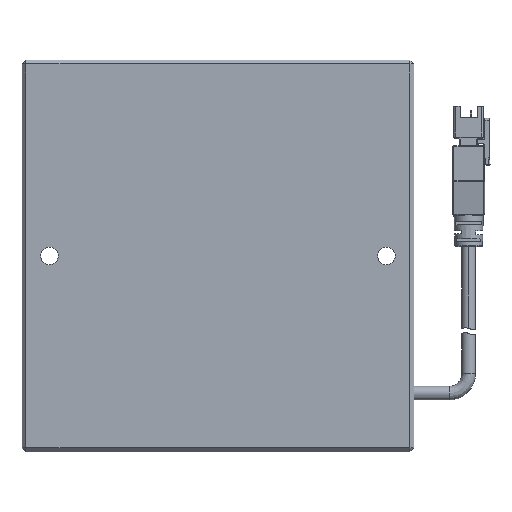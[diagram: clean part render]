
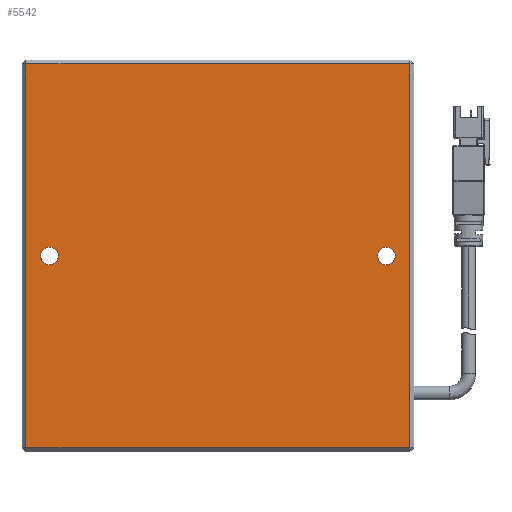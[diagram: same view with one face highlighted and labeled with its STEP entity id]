
A CAD part, top view. The second image highlights one B-rep face of the part: STEP entity #5542.
In plain terms, the highlighted planar face has unit normal (0, 0, 1).
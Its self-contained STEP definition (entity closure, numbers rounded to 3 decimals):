
#113 = EDGE_CURVE ( 'NONE', #7248, #159, #3852, .T. ) ;
#159 = VERTEX_POINT ( 'NONE', #5829 ) ;
#230 = EDGE_CURVE ( 'NONE', #6956, #6517, #3843, .T. ) ;
#234 = VERTEX_POINT ( 'NONE', #3248 ) ;
#439 = CARTESIAN_POINT ( 'NONE',  ( 49., 50., 10.5 ) ) ;
#526 = EDGE_CURVE ( 'NONE', #5541, #234, #832, .T. ) ;
#559 = CARTESIAN_POINT ( 'NONE',  ( -43., 0., 10.5 ) ) ;
#590 = CIRCLE ( 'NONE', #3587, 2.25 ) ;
#696 = DIRECTION ( 'NONE',  ( 0., -1., 0. ) ) ;
#832 = CIRCLE ( 'NONE', #6857, 2.25 ) ;
#919 = VERTEX_POINT ( 'NONE', #4359 ) ;
#1481 = AXIS2_PLACEMENT_3D ( 'NONE', #559, #6333, #8262 ) ;
#1549 = PLANE ( 'NONE',  #3661 ) ;
#1663 = EDGE_CURVE ( 'NONE', #919, #6956, #1845, .T. ) ;
#1711 = EDGE_CURVE ( 'NONE', #7384, #919, #8101, .T. ) ;
#1783 = DIRECTION ( 'NONE',  ( -1., 0., 0. ) ) ;
#1845 = LINE ( 'NONE', #439, #6797 ) ;
#2002 = ORIENTED_EDGE ( 'NONE', *, *, #113, .T. ) ;
#2404 = EDGE_LOOP ( 'NONE', ( #4332, #6269, #4570, #4905 ) ) ;
#2664 = DIRECTION ( 'NONE',  ( -1., 0., 0. ) ) ;
#2693 = DIRECTION ( 'NONE',  ( 1., 0., 0. ) ) ;
#2721 = VECTOR ( 'NONE', #2664, 1000. ) ;
#2791 = CARTESIAN_POINT ( 'NONE',  ( -40.75, 0., 10.5 ) ) ;
#2915 = CARTESIAN_POINT ( 'NONE',  ( 43., 0., 10.5 ) ) ;
#3081 = EDGE_CURVE ( 'NONE', #234, #5541, #590, .T. ) ;
#3139 = LINE ( 'NONE', #5806, #4640 ) ;
#3248 = CARTESIAN_POINT ( 'NONE',  ( 40.75, 0., 10.5 ) ) ;
#3456 = CARTESIAN_POINT ( 'NONE',  ( 50., -49., 10.5 ) ) ;
#3573 = DIRECTION ( 'NONE',  ( 0., 0., -1. ) ) ;
#3587 = AXIS2_PLACEMENT_3D ( 'NONE', #2915, #3573, #8013 ) ;
#3661 = AXIS2_PLACEMENT_3D ( 'NONE', #7926, #6630, #7251 ) ;
#3697 = ORIENTED_EDGE ( 'NONE', *, *, #3081, .T. ) ;
#3843 = LINE ( 'NONE', #6385, #2721 ) ;
#3852 = CIRCLE ( 'NONE', #1481, 2.25 ) ;
#3921 = CARTESIAN_POINT ( 'NONE',  ( -49., 49., 10.5 ) ) ;
#4171 = DIRECTION ( 'NONE',  ( 0., 1., 0. ) ) ;
#4195 = CARTESIAN_POINT ( 'NONE',  ( -49., -49., 10.5 ) ) ;
#4332 = ORIENTED_EDGE ( 'NONE', *, *, #230, .T. ) ;
#4359 = CARTESIAN_POINT ( 'NONE',  ( 49., -49., 10.5 ) ) ;
#4522 = FACE_BOUND ( 'NONE', #6193, .T. ) ;
#4570 = ORIENTED_EDGE ( 'NONE', *, *, #1711, .T. ) ;
#4640 = VECTOR ( 'NONE', #696, 1000. ) ;
#4750 = EDGE_CURVE ( 'NONE', #6517, #7384, #3139, .T. ) ;
#4770 = CIRCLE ( 'NONE', #6427, 2.25 ) ;
#4898 = CARTESIAN_POINT ( 'NONE',  ( 43., 0., 10.5 ) ) ;
#4905 = ORIENTED_EDGE ( 'NONE', *, *, #1663, .T. ) ;
#5453 = ORIENTED_EDGE ( 'NONE', *, *, #526, .T. ) ;
#5541 = VERTEX_POINT ( 'NONE', #7229 ) ;
#5542 = ADVANCED_FACE ( 'NONE', ( #5788, #6183, #4522 ), #1549, .T. ) ;
#5587 = DIRECTION ( 'NONE',  ( 0., 0., -1. ) ) ;
#5783 = CARTESIAN_POINT ( 'NONE',  ( -43., 0., 10.5 ) ) ;
#5788 = FACE_OUTER_BOUND ( 'NONE', #2404, .T. ) ;
#5806 = CARTESIAN_POINT ( 'NONE',  ( -49., -50., 10.5 ) ) ;
#5829 = CARTESIAN_POINT ( 'NONE',  ( -45.25, 0., 10.5 ) ) ;
#5849 = EDGE_LOOP ( 'NONE', ( #5942, #2002 ) ) ;
#5888 = DIRECTION ( 'NONE',  ( 0., 0., -1. ) ) ;
#5942 = ORIENTED_EDGE ( 'NONE', *, *, #7021, .T. ) ;
#6183 = FACE_BOUND ( 'NONE', #5849, .T. ) ;
#6193 = EDGE_LOOP ( 'NONE', ( #3697, #5453 ) ) ;
#6269 = ORIENTED_EDGE ( 'NONE', *, *, #4750, .T. ) ;
#6333 = DIRECTION ( 'NONE',  ( 0., 0., -1. ) ) ;
#6385 = CARTESIAN_POINT ( 'NONE',  ( -50., 49., 10.5 ) ) ;
#6399 = VECTOR ( 'NONE', #2693, 1000. ) ;
#6427 = AXIS2_PLACEMENT_3D ( 'NONE', #5783, #5888, #7693 ) ;
#6517 = VERTEX_POINT ( 'NONE', #3921 ) ;
#6630 = DIRECTION ( 'NONE',  ( 0., 0., 1. ) ) ;
#6797 = VECTOR ( 'NONE', #4171, 1000. ) ;
#6828 = CARTESIAN_POINT ( 'NONE',  ( 49., 49., 10.5 ) ) ;
#6857 = AXIS2_PLACEMENT_3D ( 'NONE', #4898, #5587, #1783 ) ;
#6956 = VERTEX_POINT ( 'NONE', #6828 ) ;
#7021 = EDGE_CURVE ( 'NONE', #159, #7248, #4770, .T. ) ;
#7229 = CARTESIAN_POINT ( 'NONE',  ( 45.25, 0., 10.5 ) ) ;
#7248 = VERTEX_POINT ( 'NONE', #2791 ) ;
#7251 = DIRECTION ( 'NONE',  ( 1., 0., 0. ) ) ;
#7384 = VERTEX_POINT ( 'NONE', #4195 ) ;
#7693 = DIRECTION ( 'NONE',  ( -1., 0., 0. ) ) ;
#7926 = CARTESIAN_POINT ( 'NONE',  ( 0., 0., 10.5 ) ) ;
#8013 = DIRECTION ( 'NONE',  ( -1., 0., 0. ) ) ;
#8101 = LINE ( 'NONE', #3456, #6399 ) ;
#8262 = DIRECTION ( 'NONE',  ( -1., 0., 0. ) ) ;
